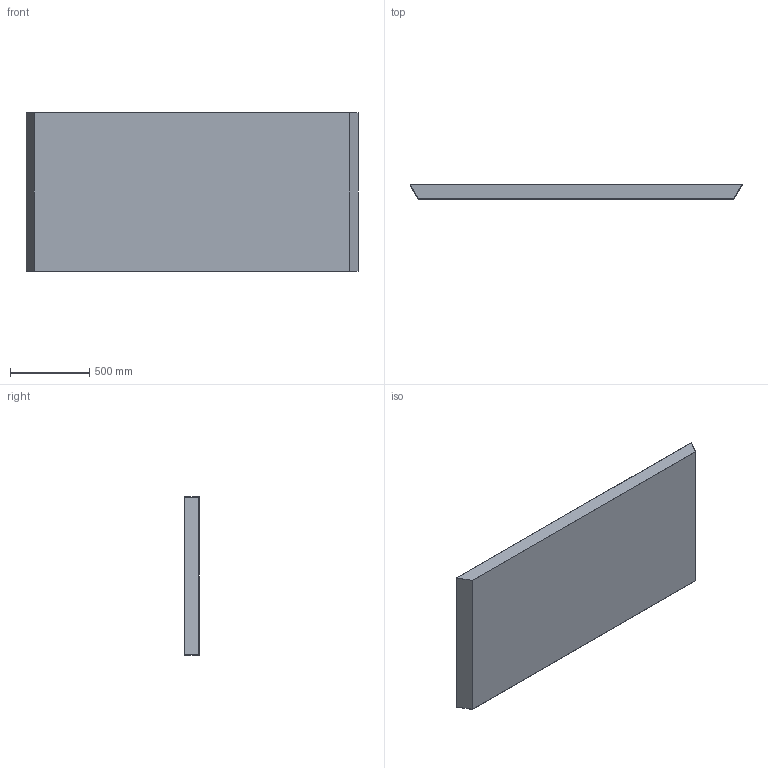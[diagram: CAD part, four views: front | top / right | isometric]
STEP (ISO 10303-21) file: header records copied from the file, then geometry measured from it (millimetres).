
FILE_DESCRIPTION (( 'STEP AP214' ), '1' );
FILE_NAME ('Okapová vana.STEP', '2019-08-05T07:30:39', ( '' ), ( '' ), 'SwSTEP 2.0', 'SolidWorks 2016', '' );
FILE_SCHEMA (( 'AUTOMOTIVE_DESIGN' ));
Length unit declared in the file: millimetre
Products named in the file (1): Okapová vana
Bounding box: 2100 x 90 x 1000 mm (x, y, z)
Volume: 2566433.5 mm3; surface area: 5139375.3 mm2
Topology: 1 solids, 1 shells, 11 faces, 24 edges, 16 vertices
Faces by surface type: plane 11
Entity records: 332 total; most frequent: CARTESIAN_POINT 52, ORIENTED_EDGE 48, DIRECTION 48, VECTOR 24, EDGE_CURVE 24, LINE 24, VERTEX_POINT 16, AXIS2_PLACEMENT_3D 12
